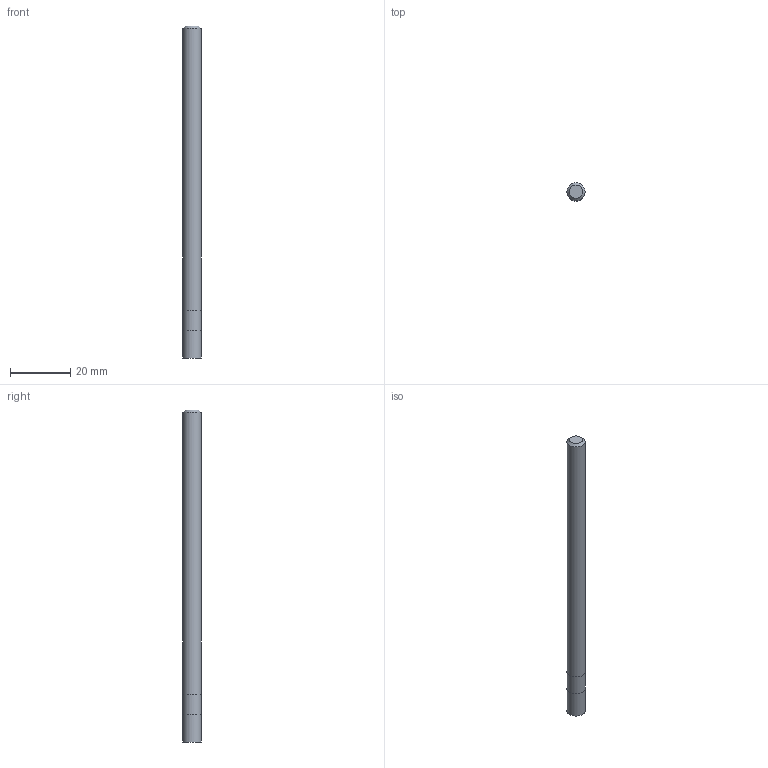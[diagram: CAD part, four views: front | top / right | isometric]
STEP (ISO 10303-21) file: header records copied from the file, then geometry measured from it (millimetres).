
FILE_DESCRIPTION((''),'2;1');
FILE_NAME('C:\Users\nsx150\AppData\Local\Temp\Mastercam 2021\EUJSUNXURU\TEMP.step','2021-04-22T10:28:48',(''),(''),'STEP Write','Mastercam 2021 ... CNC Software, Inc.','');
FILE_SCHEMA(('AUTOMOTIVE_DESIGN'));
Length unit declared in the file: millimetre
Products named in the file (1): None
Bounding box: 6 x 6 x 110 mm (x, y, z)
Volume: 3104.7 mm3; surface area: 2176.9 mm2
Topology: 2 solids, 2 shells, 8 faces, 10 edges, 6 vertices
Faces by surface type: plane 4, cylinder 3, cone 1
Full cylindrical faces by diameter (mm): 6 x3
Entity records: 190 total; most frequent: DIRECTION 32, CARTESIAN_POINT 22, AXIS2_PLACEMENT_3D 16, ORIENTED_EDGE 12, EDGE_LOOP 12, STYLED_ITEM 11, ADVANCED_FACE 8, FACE_BOUND 7
